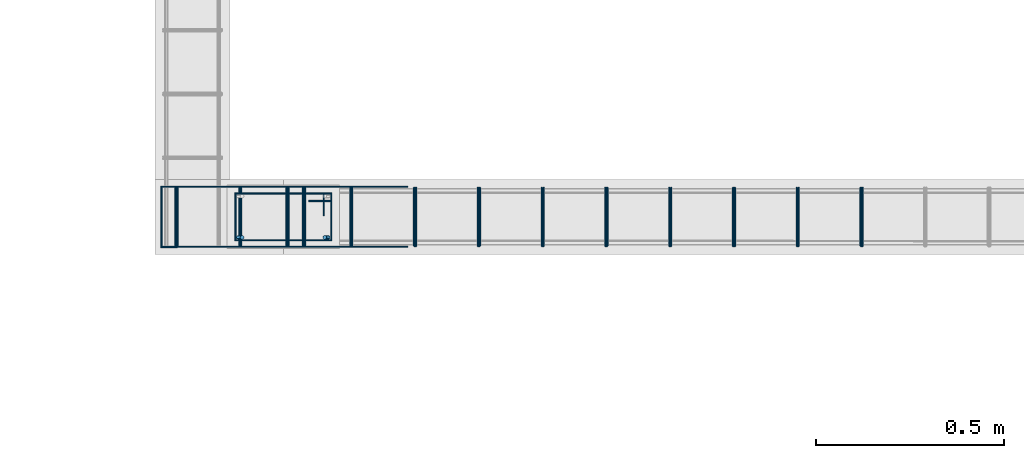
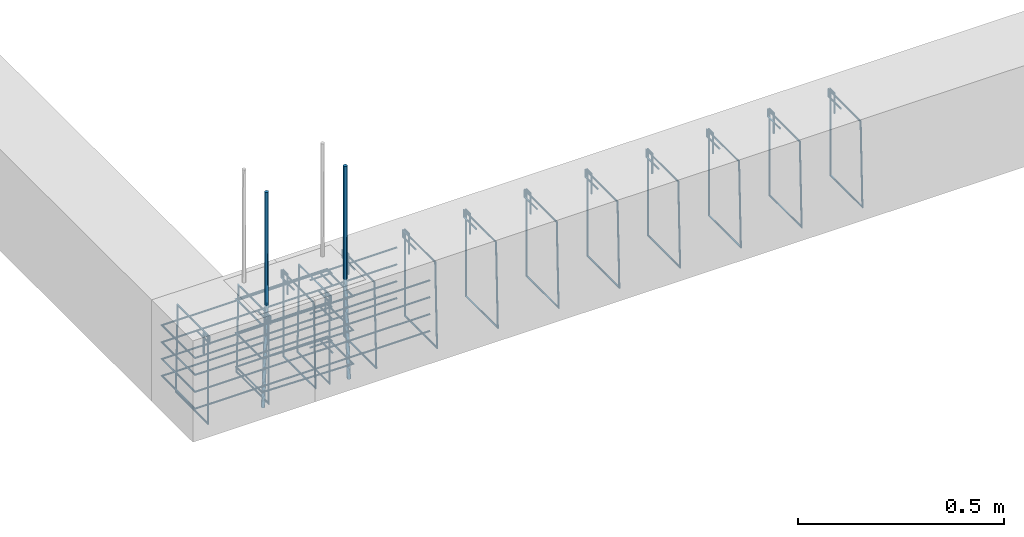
# One storey, part 81 of 150: 22 reinforcing bars.
"""IFC4 building model written with IfcOpenShell, lengths in centimetres."""

from ifc_helpers import new_model, entity, si_unit, derived_unit, frame, origin_with_axes, place, context, project, spatial, source, transform, mapped, element, save


model = new_model("IFC4")

# Units and contexts
model_context = context("Model", 3, precision=1e-05, world=origin_with_axes(), identifier="Body")
ifc_project = project(units=[si_unit("LENGTHUNIT", "METRE", prefix="CENTI"), si_unit("VOLUMEUNIT", "CUBIC_METRE"), si_unit("AREAUNIT", "SQUARE_METRE"), si_unit("POWERUNIT", "WATT"), si_unit("LUMINOUSFLUXUNIT", "LUMEN"), si_unit("ELECTRICCURRENTUNIT", "AMPERE"), si_unit("PRESSUREUNIT", "PASCAL", prefix="KILO"), si_unit("MASSUNIT", "GRAM", prefix="KILO"), si_unit("PLANEANGLEUNIT", "RADIAN"), derived_unit("VOLUMETRICFLOWRATEUNIT", [(si_unit("LENGTHUNIT", "METRE"), 3), (si_unit("TIMEUNIT", "SECOND"), -1)])], contexts=[model_context])

# Site, building, storey
site_placement = place(None, frame((-4000.0, 0.0, 0.0), z_axis=(0.0, 0.0, 1.0), x_axis=(1.0, 0.0, 0.0)))
site = spatial("IfcSite", under=ifc_project, at=site_placement, Name="PADRÃO")
building_placement = place(site_placement, frame((0.0, 0.0, -14.0)))
building = spatial("IfcBuilding", under=site, at=building_placement, Name="CRECHE PRÉ-ESCOLA TIPO 2")
placement = place(building_placement, origin_with_axes())
storey_placement = place(placement, frame((0.0, 0.0, 30.0), z_axis=(0.0, 0.0, 1.0), x_axis=(1.0, 0.0, 0.0)))
storey = spatial("IfcBuildingStorey", under=building, at=storey_placement, Name="VIGA BALDRAME", CompositionType="ELEMENT", Elevation=16.0)

# Reinforcing bars
shared_shape_1 = source(origin_with_axes(), model_context, "Body", "AdvancedSweptSolid", [
    entity("IfcSweptDiskSolid", entity("IfcCompositeCurve", [entity("IfcCompositeCurveSegment", "CONTINUOUS", True, entity("IfcPolyline", [entity("IfcCartesianPoint", [4.25, 21.75, 0.0]), entity("IfcCartesianPoint", [4.25, 27.75, 0.0])])), entity("IfcCompositeCurveSegment", "CONTINUOUS", True, entity("IfcPolyline", [entity("IfcCartesianPoint", [4.25, 27.75, 0.0]), entity("IfcCartesianPoint", [2.25, 27.75, 0.0])])), entity("IfcCompositeCurveSegment", "CONTINUOUS", True, entity("IfcPolyline", [entity("IfcCartesianPoint", [2.25, 27.75, 0.0]), entity("IfcCartesianPoint", [2.25, 2.25, 0.0])])), entity("IfcCompositeCurveSegment", "CONTINUOUS", True, entity("IfcPolyline", [entity("IfcCartesianPoint", [2.25, 2.25, 0.0]), entity("IfcCartesianPoint", [14.75, 2.25, 0.0])])), entity("IfcCompositeCurveSegment", "CONTINUOUS", True, entity("IfcPolyline", [entity("IfcCartesianPoint", [14.75, 2.25, 0.0]), entity("IfcCartesianPoint", [14.75, 27.75, -0.5])])), entity("IfcCompositeCurveSegment", "CONTINUOUS", True, entity("IfcPolyline", [entity("IfcCartesianPoint", [14.75, 27.75, -0.5]), entity("IfcCartesianPoint", [2.25, 27.75, -0.5])])), entity("IfcCompositeCurveSegment", "CONTINUOUS", True, entity("IfcPolyline", [entity("IfcCartesianPoint", [2.25, 27.75, -0.5]), entity("IfcCartesianPoint", [2.25, 25.75, -0.5])])), entity("IfcCompositeCurveSegment", "CONTINUOUS", True, entity("IfcPolyline", [entity("IfcCartesianPoint", [2.25, 25.75, -0.5]), entity("IfcCartesianPoint", [8.25, 25.75, -0.5])]))], False), 0.25),
])
for number, where, z_axis, x_axis, name in (
    (1, (2233.76, 3208.52, -25.0), (0.0, 0.0, 1.0), (0.0, -1.0, 0.0), "P52 - Estribo"),
    (2, (2233.76, 3208.52, -15.0), (0.0, 0.0, 1.0), (0.0, -1.0, 0.0), "P52 - Estribo"),
    (3, (2233.76, 3208.52, -5.0), (0.0, 0.0, 1.0), (0.0, -1.0, 0.0), "P52 - Estribo"),
):
    element("IfcReinforcingBar", number, at=place(storey_placement, frame(where, z_axis=z_axis, x_axis=x_axis)), inside=storey, Name=name, BarLength=0.0, CrossSectionArea=1.9634954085e-05, NominalDiameter=0.5, PredefinedType="MAIN", context=model_context, shape_type="MappedRepresentation", body=[
        mapped(shared_shape_1, transform((0.0, 0.0, 0.0), scale=1.0)),
    ])
shared_shape_2 = source(origin_with_axes(), model_context, "Body", "AdvancedSweptSolid", [
    entity("IfcSweptDiskSolid", entity("IfcCompositeCurve", [entity("IfcCompositeCurveSegment", "CONTINUOUS", True, entity("IfcPolyline", [entity("IfcCartesianPoint", [2.0, -6.0, 0.0]), entity("IfcCartesianPoint", [2.0, 0.0, 0.0])])), entity("IfcCompositeCurveSegment", "CONTINUOUS", True, entity("IfcPolyline", [entity("IfcCartesianPoint", [2.0, 0.0, 0.0]), entity("IfcCartesianPoint", [0.0, 0.0, 0.0])])), entity("IfcCompositeCurveSegment", "CONTINUOUS", True, entity("IfcPolyline", [entity("IfcCartesianPoint", [0.0, 0.0, 0.0]), entity("IfcCartesianPoint", [0.0, -25.5, 0.0])])), entity("IfcCompositeCurveSegment", "CONTINUOUS", True, entity("IfcPolyline", [entity("IfcCartesianPoint", [0.0, -25.5, 0.0]), entity("IfcCartesianPoint", [15.5, -25.5, 0.0])])), entity("IfcCompositeCurveSegment", "CONTINUOUS", True, entity("IfcPolyline", [entity("IfcCartesianPoint", [15.5, -25.5, 0.0]), entity("IfcCartesianPoint", [15.5, 0.0, 0.5])])), entity("IfcCompositeCurveSegment", "CONTINUOUS", True, entity("IfcPolyline", [entity("IfcCartesianPoint", [15.5, 0.0, 0.5]), entity("IfcCartesianPoint", [0.0, 0.0, 0.5])])), entity("IfcCompositeCurveSegment", "CONTINUOUS", True, entity("IfcPolyline", [entity("IfcCartesianPoint", [0.0, 0.0, 0.5]), entity("IfcCartesianPoint", [0.0, -2.0, 0.5])])), entity("IfcCompositeCurveSegment", "CONTINUOUS", True, entity("IfcPolyline", [entity("IfcCartesianPoint", [0.0, -2.0, 0.5]), entity("IfcCartesianPoint", [6.0, -2.0, 0.5])]))], False), 0.25),
])
for number, where, z_axis, x_axis, name in (
    (4, (2254.03, 3192.27, -2.25), (1.0, 0.0, 0.0), (0.0, 1.0, 0.0), "V114 - Estribo"),
    (5, (2237.03, 3192.27, -2.25), (1.0, 0.0, 0.0), (0.0, 1.0, 0.0), "V114 - Estribo"),
    (6, (2220.03, 3192.27, -2.25), (1.0, 0.0, 0.0), (0.0, 1.0, 0.0), "V114 - Estribo"),
):
    element("IfcReinforcingBar", number, at=place(storey_placement, frame(where, z_axis=z_axis, x_axis=x_axis)), inside=storey, Name=name, BarLength=0.0, CrossSectionArea=1.9634954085e-05, NominalDiameter=0.5, PredefinedType="MAIN", context=model_context, shape_type="MappedRepresentation", body=[
        mapped(shared_shape_2, transform((0.0, 0.0, 0.0), scale=1.0)),
    ])
shared_shape_3 = source(origin_with_axes(), model_context, "Body", "AdvancedSweptSolid", [
    entity("IfcSweptDiskSolid", entity("IfcCompositeCurve", [entity("IfcCompositeCurveSegment", "CONTINUOUS", True, entity("IfcPolyline", [entity("IfcCartesianPoint", [2.0, -6.0, 0.0]), entity("IfcCartesianPoint", [2.0, 0.0, 0.0])])), entity("IfcCompositeCurveSegment", "CONTINUOUS", True, entity("IfcPolyline", [entity("IfcCartesianPoint", [2.0, 0.0, 0.0]), entity("IfcCartesianPoint", [0.0, 0.0, 0.0])])), entity("IfcCompositeCurveSegment", "CONTINUOUS", True, entity("IfcPolyline", [entity("IfcCartesianPoint", [0.0, 0.0, 0.0]), entity("IfcCartesianPoint", [0.0, -25.5, 0.0])])), entity("IfcCompositeCurveSegment", "CONTINUOUS", True, entity("IfcPolyline", [entity("IfcCartesianPoint", [0.0, -25.5, 0.0]), entity("IfcCartesianPoint", [15.5, -25.5, 0.0])])), entity("IfcCompositeCurveSegment", "CONTINUOUS", True, entity("IfcPolyline", [entity("IfcCartesianPoint", [15.5, -25.5, 0.0]), entity("IfcCartesianPoint", [15.5, 0.0, 0.5])])), entity("IfcCompositeCurveSegment", "CONTINUOUS", True, entity("IfcPolyline", [entity("IfcCartesianPoint", [15.5, 0.0, 0.5]), entity("IfcCartesianPoint", [0.0, 0.0, 0.5])])), entity("IfcCompositeCurveSegment", "CONTINUOUS", True, entity("IfcPolyline", [entity("IfcCartesianPoint", [0.0, 0.0, 0.5]), entity("IfcCartesianPoint", [0.0, -2.0, 0.5])])), entity("IfcCompositeCurveSegment", "CONTINUOUS", True, entity("IfcPolyline", [entity("IfcCartesianPoint", [0.0, -2.0, 0.5]), entity("IfcCartesianPoint", [6.0, -2.0, 0.5])]))], False), 0.25),
])
for number, where, z_axis, x_axis, name in (
    (7, (2250.13, 3207.77, -2.25), (-1.0, 0.0, 0.0), (0.0, -1.0, 0.0), "V114 - Estribo"),
    (8, (2403.13, 3207.77, -2.25), (-1.0, 0.0, 0.0), (0.0, -1.0, 0.0), "V114 - Estribo"),
    (9, (2386.13, 3207.77, -2.25), (-1.0, 0.0, 0.0), (0.0, -1.0, 0.0), "V114 - Estribo"),
    (10, (2369.13, 3207.77, -2.25), (-1.0, 0.0, 0.0), (0.0, -1.0, 0.0), "V114 - Estribo"),
    (11, (2352.13, 3207.77, -2.25), (-1.0, 0.0, 0.0), (0.0, -1.0, 0.0), "V114 - Estribo"),
    (12, (2335.13, 3207.77, -2.25), (-1.0, 0.0, 0.0), (0.0, -1.0, 0.0), "V114 - Estribo"),
    (13, (2318.13, 3207.77, -2.25), (-1.0, 0.0, 0.0), (0.0, -1.0, 0.0), "V114 - Estribo"),
    (14, (2301.13, 3207.77, -2.25), (-1.0, 0.0, 0.0), (0.0, -1.0, 0.0), "V114 - Estribo"),
    (15, (2284.13, 3207.77, -2.25), (-1.0, 0.0, 0.0), (0.0, -1.0, 0.0), "V114 - Estribo"),
    (16, (2267.13, 3207.77, -2.25), (-1.0, 0.0, 0.0), (0.0, -1.0, 0.0), "V114 - Estribo"),
):
    element("IfcReinforcingBar", number, at=place(storey_placement, frame(where, z_axis=z_axis, x_axis=x_axis)), inside=storey, Name=name, BarLength=0.0, CrossSectionArea=1.9634954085e-05, NominalDiameter=0.5, PredefinedType="MAIN", context=model_context, shape_type="MappedRepresentation", body=[
        mapped(shared_shape_3, transform((0.0, 0.0, 0.0), scale=1.0)),
    ])
shared_shape_4 = source(origin_with_axes(), model_context, "Body", "AdvancedSweptSolid", [
    entity("IfcSweptDiskSolid", entity("IfcCompositeCurve", [entity("IfcCompositeCurveSegment", "CONTINUOUS", True, entity("IfcPolyline", [entity("IfcCartesianPoint", [0.0, 0.0, 0.0]), entity("IfcCartesianPoint", [-65.7013828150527, 0.0, 0.0])])), entity("IfcCompositeCurveSegment", "CONTINUOUS", True, entity("IfcPolyline", [entity("IfcCartesianPoint", [-65.7013828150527, 0.0, 0.0]), entity("IfcCartesianPoint", [-65.7013828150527, -16.0, 0.0])])), entity("IfcCompositeCurveSegment", "CONTINUOUS", True, entity("IfcPolyline", [entity("IfcCartesianPoint", [-65.7013828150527, -16.0, 0.0]), entity("IfcCartesianPoint", [0.0, -16.0, 0.0])]))], False), 0.25),
])
for number, where, z_axis, x_axis, name in (
    (17, (2281.98138281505, 3208.02, -11.875), (0.0, 0.0, 1.0), (1.0, 0.0, 0.0), "V114 - Grampo"),
    (18, (2281.98138281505, 3208.02, -6.875), (0.0, 0.0, 1.0), (1.0, 0.0, 0.0), "V114 - Grampo"),
    (19, (2281.98138281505, 3208.02, -21.875), (0.0, 0.0, 1.0), (1.0, 0.0, 0.0), "V114 - Grampo"),
    (20, (2281.98138281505, 3208.02, -16.875), (0.0, 0.0, 1.0), (1.0, 0.0, 0.0), "V114 - Grampo"),
):
    element("IfcReinforcingBar", number, at=place(storey_placement, frame(where, z_axis=z_axis, x_axis=x_axis)), inside=storey, Name=name, BarLength=0.0, CrossSectionArea=1.9634954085e-05, NominalDiameter=0.5, PredefinedType="MAIN", context=model_context, shape_type="MappedRepresentation", body=[
        mapped(shared_shape_4, transform((0.0, 0.0, 0.0), scale=1.0)),
    ])
reinforcing_bar_1_placement = place(storey_placement, frame((2260.25986122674, 3194.52, 33.3573001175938), z_axis=(0.0, 0.0, 1.0), x_axis=(1.0, 0.0, 0.0)))
element("IfcReinforcingBar", 21, at=reinforcing_bar_1_placement, inside=storey, Name="P52 - Longitudinal", BarLength=0.0, CrossSectionArea=7.853981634e-05, NominalDiameter=1.0, PredefinedType="MAIN", context=model_context, shape_type="AdvancedSweptSolid", body=[
    entity("IfcSweptDiskSolid", entity("IfcCompositeCurve", [entity("IfcCompositeCurveSegment", "CONTINUOUS", True, entity("IfcPolyline", [entity("IfcCartesianPoint", [0.500138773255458, 0.0, -63.3573001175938]), entity("IfcCartesianPoint", [-0.499861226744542, 0.0, -33.3573001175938])])), entity("IfcCompositeCurveSegment", "CONTINUOUS", True, entity("IfcPolyline", [entity("IfcCartesianPoint", [-0.499861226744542, 0.0, -33.3573001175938]), entity("IfcCartesianPoint", [-0.499861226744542, 0.0, 0.0])]))], False), 0.5),
])
reinforcing_bar_2_placement = place(storey_placement, frame((2237.26013877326, 3194.52, 33.3573001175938), z_axis=(0.0, 0.0, 1.0), x_axis=(1.0, 0.0, 0.0)))
element("IfcReinforcingBar", 22, at=reinforcing_bar_2_placement, inside=storey, Name="P52 - Longitudinal", BarLength=0.0, CrossSectionArea=7.853981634e-05, NominalDiameter=1.0, PredefinedType="MAIN", context=model_context, shape_type="AdvancedSweptSolid", body=[
    entity("IfcSweptDiskSolid", entity("IfcCompositeCurve", [entity("IfcCompositeCurveSegment", "CONTINUOUS", True, entity("IfcPolyline", [entity("IfcCartesianPoint", [-0.500138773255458, 0.0, -63.3573001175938]), entity("IfcCartesianPoint", [0.499861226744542, 0.0, -33.3573001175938])])), entity("IfcCompositeCurveSegment", "CONTINUOUS", True, entity("IfcPolyline", [entity("IfcCartesianPoint", [0.499861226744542, 0.0, -33.3573001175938]), entity("IfcCartesianPoint", [0.499861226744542, 0.0, 0.0])]))], False), 0.5),
])

save(model, "model.ifc")
